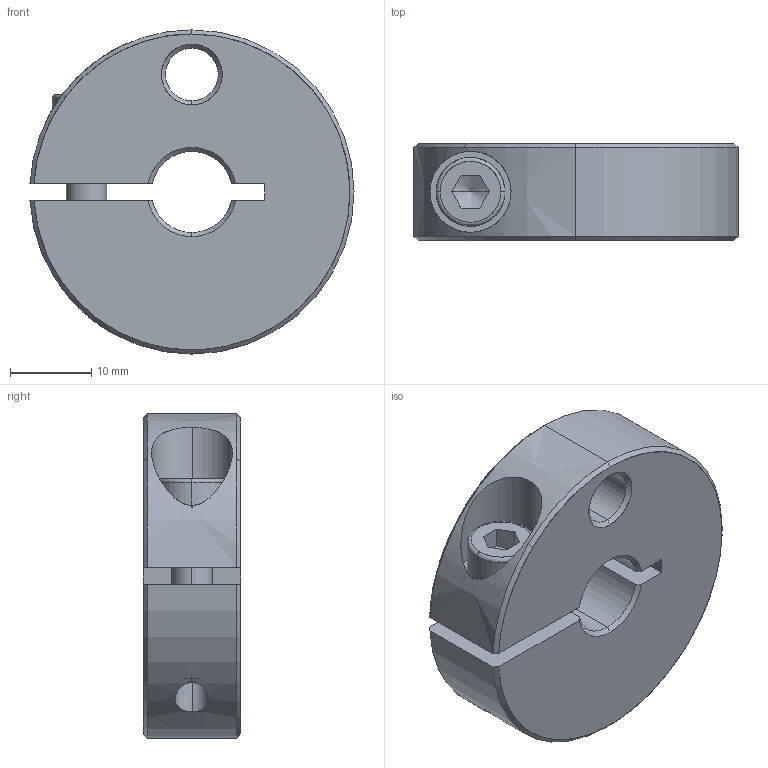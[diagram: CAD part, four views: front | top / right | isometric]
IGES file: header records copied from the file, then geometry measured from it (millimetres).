
Start section: SolidWorks IGES FILE using analytic representation for surfaces
Global section: file name: C:\WIX2\Positioning\3865\3865W010.igs; native system: SolidWorks 2003 by SolidWorks Corporation; preprocessor: Version 5.3; author: Joan; date: 030722.172910; units: millimetre
Bounding box: 39.98 x 12 x 40 mm (x, y, z)
Surface area: 5661.4 mm2 (no closed solid volume)
Topology: 0 solids, 0 shells, 67 faces, 1013 edges, 1011 vertices
Faces by surface type: revolution 47, bspline 20
